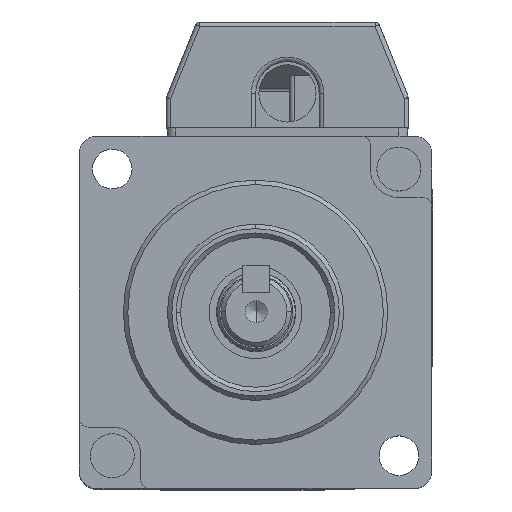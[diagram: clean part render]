
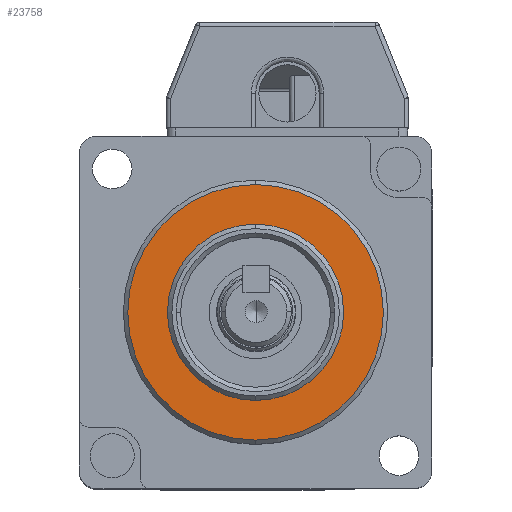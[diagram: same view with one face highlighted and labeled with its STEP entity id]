
A CAD part, top view. The second image highlights one B-rep face of the part: STEP entity #23758.
In plain terms, the highlighted planar face has unit normal (0, 0, 1).
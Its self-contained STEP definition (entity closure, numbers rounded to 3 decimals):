
#11005 = CARTESIAN_POINT ( 'NONE',  ( 0., 14.5, 56.2 ) ) ;
#11008 = CARTESIAN_POINT ( 'NONE',  ( 0., -14.5, 56.2 ) ) ;
#11023 = CARTESIAN_POINT ( 'NONE',  ( 0., 10., 56.2 ) ) ;
#11024 = CARTESIAN_POINT ( 'NONE',  ( 0., -10., 56.2 ) ) ;
#11382 = CIRCLE ( 'NONE', #11388, 14.5 ) ;
#11388 = AXIS2_PLACEMENT_3D ( 'NONE', #12798, #12799, #12800 ) ;
#11410 = CIRCLE ( 'NONE', #11413, 10. ) ;
#11413 = AXIS2_PLACEMENT_3D ( 'NONE', #12838, #12839, #12840 ) ;
#11570 = AXIS2_PLACEMENT_3D ( 'NONE', #13508, #13516, #13517 ) ;
#11671 = CIRCLE ( 'NONE', #11673, 10. ) ;
#11673 = AXIS2_PLACEMENT_3D ( 'NONE', #13788, #13789, #13790 ) ;
#11682 = CIRCLE ( 'NONE', #11686, 14.5 ) ;
#11686 = AXIS2_PLACEMENT_3D ( 'NONE', #13809, #13810, #13811 ) ;
#12798 = CARTESIAN_POINT ( 'NONE',  ( 0., 0., 56.2 ) ) ;
#12799 = DIRECTION ( 'NONE',  ( 0., 0., -1. ) ) ;
#12800 = DIRECTION ( 'NONE',  ( 0., 1., 0. ) ) ;
#12838 = CARTESIAN_POINT ( 'NONE',  ( 0., 0., 56.2 ) ) ;
#12839 = DIRECTION ( 'NONE',  ( 0., 0., -1. ) ) ;
#12840 = DIRECTION ( 'NONE',  ( 0., 1., 0. ) ) ;
#13508 = CARTESIAN_POINT ( 'NONE',  ( 0., 0., 56.2 ) ) ;
#13512 = FACE_BOUND ( 'NONE', #22059, .T. ) ;
#13513 = FACE_OUTER_BOUND ( 'NONE', #22154, .T. ) ;
#13514 = PLANE ( 'NONE',  #11570 ) ;
#13516 = DIRECTION ( 'NONE',  ( 0., 0., 1. ) ) ;
#13517 = DIRECTION ( 'NONE',  ( 0., -1., 0. ) ) ;
#13788 = CARTESIAN_POINT ( 'NONE',  ( 0., 0., 56.2 ) ) ;
#13789 = DIRECTION ( 'NONE',  ( 0., 0., -1. ) ) ;
#13790 = DIRECTION ( 'NONE',  ( 0., 1., 0. ) ) ;
#13809 = CARTESIAN_POINT ( 'NONE',  ( 0., 0., 56.2 ) ) ;
#13810 = DIRECTION ( 'NONE',  ( 0., 0., -1. ) ) ;
#13811 = DIRECTION ( 'NONE',  ( 0., 1., 0. ) ) ;
#19296 = VERTEX_POINT ( 'NONE', #11005 ) ;
#19299 = VERTEX_POINT ( 'NONE', #11008 ) ;
#19311 = VERTEX_POINT ( 'NONE', #11023 ) ;
#19312 = VERTEX_POINT ( 'NONE', #11024 ) ;
#22059 = EDGE_LOOP ( 'NONE', ( #23368, #23369 ) ) ;
#22154 = EDGE_LOOP ( 'NONE', ( #23370, #23371 ) ) ;
#23368 = ORIENTED_EDGE ( 'NONE', *, *, #23633, .T. ) ;
#23369 = ORIENTED_EDGE ( 'NONE', *, *, #23823, .T. ) ;
#23370 = ORIENTED_EDGE ( 'NONE', *, *, #23620, .F. ) ;
#23371 = ORIENTED_EDGE ( 'NONE', *, *, #23829, .F. ) ;
#23620 = EDGE_CURVE ( 'NONE', #19296, #19299, #11382, .T. ) ;
#23633 = EDGE_CURVE ( 'NONE', #19311, #19312, #11410, .T. ) ;
#23758 = ADVANCED_FACE ( 'NONE', ( #13512, #13513 ), #13514, .T. ) ;
#23823 = EDGE_CURVE ( 'NONE', #19312, #19311, #11671, .T. ) ;
#23829 = EDGE_CURVE ( 'NONE', #19299, #19296, #11682, .T. ) ;
